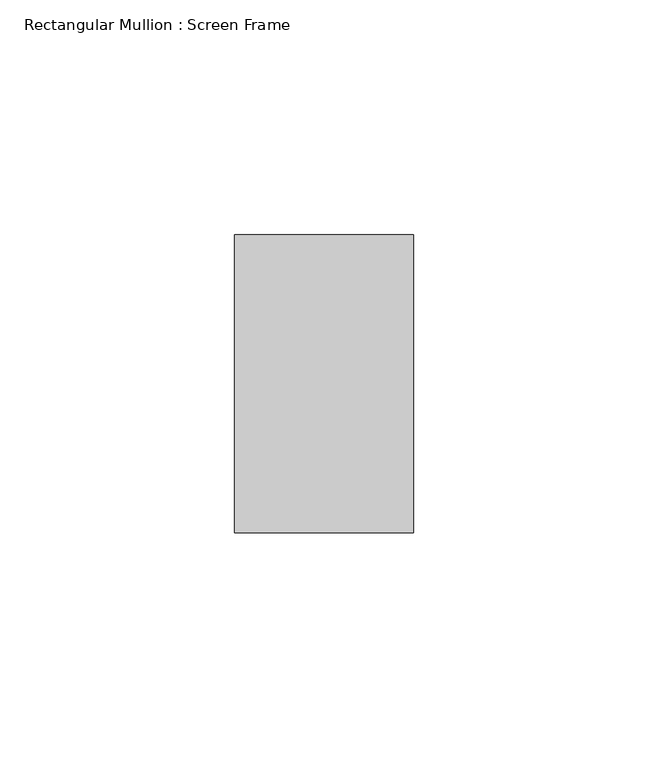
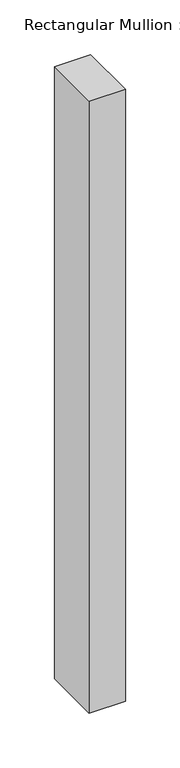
"""IFC4 building model written with IfcOpenShell, lengths in millimetres: member geometry, Rectangular Mullion : Screen Frame."""

from ifc_helpers import new_model, si_unit, frame, origin, place, context, project, spatial, polyline, outline, extrude, source, transform, mapped, element, save


def rectangular_mullion_screen_frame_30235923(model_context):
    return source(origin(), model_context, "Body", "SweptSolid", [
        extrude(outline(polyline([(0.0, 31.75), (0.0, -31.75), (-38.1, -31.75), (-38.1, 31.75), (0.0, 31.75)])), frame((0.0, 0.0, -683.0568), z_axis=(0.0, 0.0, 1.0), x_axis=(1.0, 0.0, 0.0)), (0.0, 0.0, 1.0), 683.0568),
    ])


if __name__ == "__main__":
    model = new_model("IFC4")
    model_context = context("Model", 3, world=origin())
    ifc_project = project(units=[si_unit("LENGTHUNIT", "METRE", prefix="MILLI")], contexts=[model_context])
    site = spatial("IfcSite", under=ifc_project)
    building = spatial("IfcBuilding", under=site)
    placement = place(None, origin())
    rectangular_mullion_screen_frame_shape = rectangular_mullion_screen_frame_30235923(model_context)
    element("IfcMember", 1, ObjectType="Rectangular Mullion : Screen Frame", at=placement, inside=building, context=model_context, shape_type="MappedRepresentation", body=[
        mapped(rectangular_mullion_screen_frame_shape, transform((0.0, 0.0, 0.0), x_axis=(1.0, 0.0, 0.0), y_axis=(0.0, 1.0, 0.0), z_axis=(0.0, 0.0, 1.0))),
    ])
    save(model, "model.ifc")
